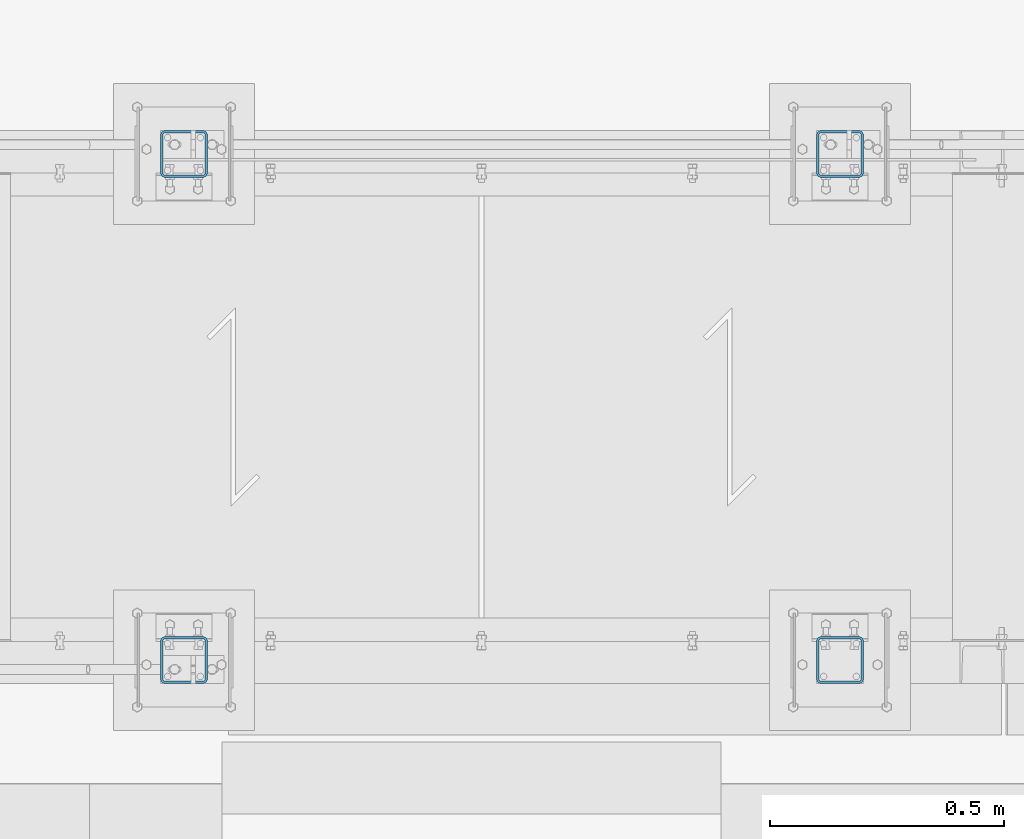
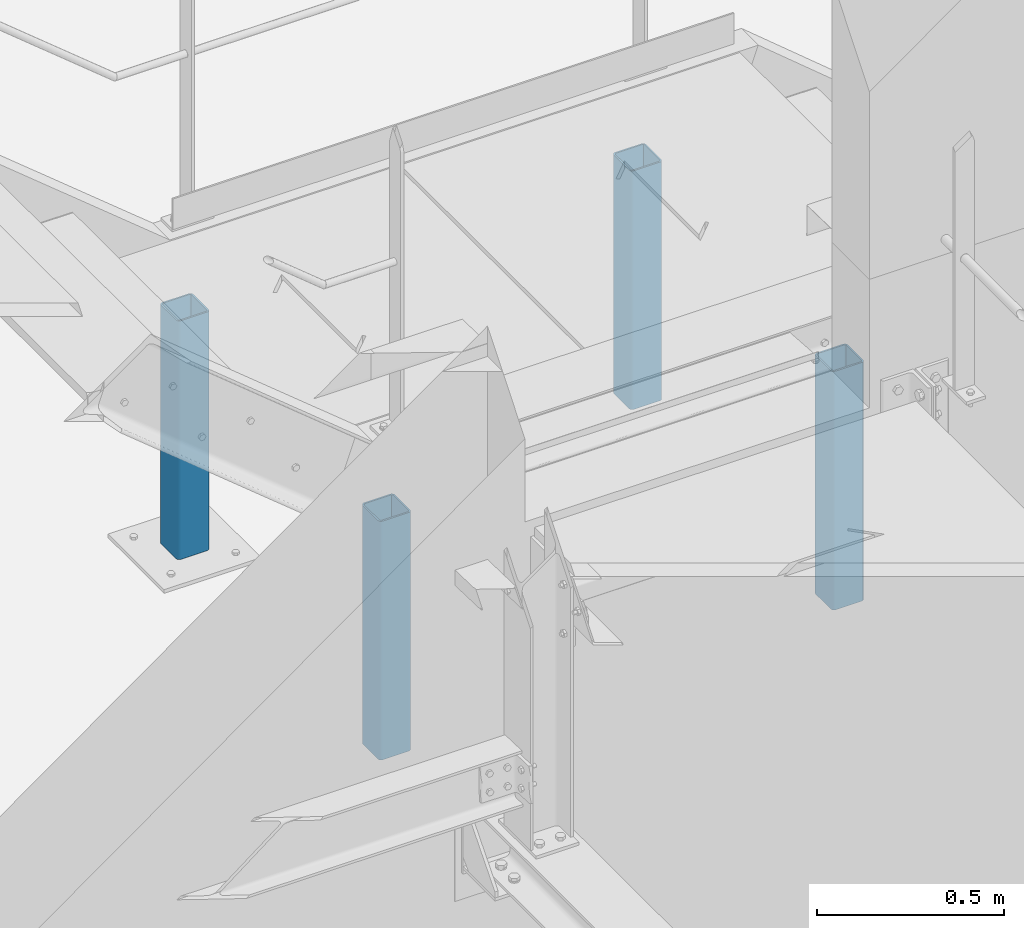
# One storey, part 35 of 362: 4 columns, 4 elements without a shape of their own.
"""IFC2X3 building model written with IfcOpenShell, lengths in millimetres."""

from ifc_helpers import new_model, si_unit, frame, origin_with_axes, origin_2d_with_axis, place, context, subcontext, project, spatial, hollow_rectangle, extrude, material, type_object, element, aggregate, save


model = new_model("IFC2X3")

# Units and contexts
model_context = context("Model", 3, precision=1e-05, world=origin_with_axes())
body_context = subcontext(model_context, "Body", "Model", "MODEL_VIEW")
ifc_project = project(units=[si_unit("LENGTHUNIT", "METRE", prefix="MILLI"), si_unit("AREAUNIT", "SQUARE_METRE"), si_unit("VOLUMEUNIT", "CUBIC_METRE"), si_unit("MASSUNIT", "GRAM", prefix="KILO"), si_unit("TIMEUNIT", "SECOND"), si_unit("PLANEANGLEUNIT", "RADIAN"), si_unit("SOLIDANGLEUNIT", "STERADIAN"), si_unit("THERMODYNAMICTEMPERATUREUNIT", "DEGREE_CELSIUS"), si_unit("LUMINOUSINTENSITYUNIT", "LUMEN")], contexts=[model_context])

# Site, building, storey
site_placement = place(None, origin_with_axes())
site = spatial("IfcSite", under=ifc_project, at=site_placement, Name="Undefined", CompositionType="ELEMENT")
building_placement = place(site_placement, origin_with_axes())
building = spatial("IfcBuilding", under=site, at=building_placement, Name="Undefined", CompositionType="ELEMENT")
storey_placement = place(building_placement, origin_with_axes())
storey = spatial("IfcBuildingStorey", under=building, at=storey_placement, Name="Undefined", CompositionType="ELEMENT", Elevation=0.0)

# Assembly, column
assembly_1_placement = place(storey_placement, origin_with_axes())
assembly_1 = element("IfcElementAssembly", 1, at=assembly_1_placement, inside=storey, AssemblyPlace="NOTDEFINED", PredefinedType="NOTDEFINED")
ifc_material = material(Name="Undefined/S235-E24")
column_type = type_object("IfcColumnType", Name="TUBE-C-100*100*5", PredefinedType="NOTDEFINED")
column_1_placement = place(assembly_1_placement, frame((23455.0, 15990.0001225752, 7062.0), z_axis=(0.0, 0.0, 1.0), x_axis=(0.0, 1.0, 0.0)))
column_1 = element("IfcColumn", 2, at=column_1_placement, type_object=column_type, material=ifc_material, Name="POTELET", ObjectType="TUBE-C-100*100*5", context=body_context, shape_type="SweptSolid", body=[
    extrude(hollow_rectangle(XDim=100.0, YDim=100.0, WallThickness=5.0, InnerFilletRadius=5.0, OuterFilletRadius=10.0, at=origin_2d_with_axis()), frame((0.0, 0.0, 780.000011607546), z_axis=(0.0, 0.0, -1.0), x_axis=(0.0, 1.0, 0.0)), (0.0, 0.0, 1.0), 780.0),
])
aggregate(assembly_1, [column_1])

assembly_2_placement = place(storey_placement, origin_with_axes())
assembly_2 = element("IfcElementAssembly", 3, at=assembly_2_placement, inside=storey, AssemblyPlace="NOTDEFINED", PredefinedType="NOTDEFINED")
column_2_placement = place(assembly_2_placement, frame((24855.0, 15990.0001225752, 7062.0), z_axis=(0.0, 0.0, 1.0), x_axis=(0.0, 1.0, 0.0)))
column_2 = element("IfcColumn", 4, at=column_2_placement, type_object=column_type, material=ifc_material, Name="POTELET", ObjectType="TUBE-C-100*100*5", context=body_context, shape_type="SweptSolid", body=[
    extrude(hollow_rectangle(XDim=100.0, YDim=100.0, WallThickness=5.0, InnerFilletRadius=5.0, OuterFilletRadius=10.0, at=origin_2d_with_axis()), frame((0.0, 0.0, 780.000011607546), z_axis=(0.0, 0.0, -1.0), x_axis=(0.0, 1.0, 0.0)), (0.0, 0.0, 1.0), 780.0),
])
aggregate(assembly_2, [column_2])

assembly_3_placement = place(storey_placement, origin_with_axes())
assembly_3 = element("IfcElementAssembly", 5, at=assembly_3_placement, inside=storey, AssemblyPlace="NOTDEFINED", PredefinedType="NOTDEFINED")
column_3_placement = place(assembly_3_placement, frame((23455.0, 17069.9998774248, 7062.0), z_axis=(0.0, 0.0, 1.0), x_axis=(0.0, -1.0, 0.0)))
column_3 = element("IfcColumn", 6, at=column_3_placement, type_object=column_type, material=ifc_material, Name="POTELET", ObjectType="TUBE-C-100*100*5", context=body_context, shape_type="SweptSolid", body=[
    extrude(hollow_rectangle(XDim=100.0, YDim=100.0, WallThickness=5.0, InnerFilletRadius=5.0, OuterFilletRadius=10.0, at=origin_2d_with_axis()), frame((0.0, 0.0, 780.000011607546), z_axis=(0.0, 0.0, -1.0), x_axis=(0.0, 1.0, 0.0)), (0.0, 0.0, 1.0), 780.0),
])
aggregate(assembly_3, [column_3])

assembly_4_placement = place(storey_placement, origin_with_axes())
assembly_4 = element("IfcElementAssembly", 7, at=assembly_4_placement, inside=storey, AssemblyPlace="NOTDEFINED", PredefinedType="NOTDEFINED")
column_4_placement = place(assembly_4_placement, frame((24855.0, 17069.9998774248, 7062.0), z_axis=(0.0, 0.0, 1.0), x_axis=(0.0, -1.0, 0.0)))
column_4 = element("IfcColumn", 8, at=column_4_placement, type_object=column_type, material=ifc_material, Name="POTELET", ObjectType="TUBE-C-100*100*5", context=body_context, shape_type="SweptSolid", body=[
    extrude(hollow_rectangle(XDim=100.0, YDim=100.0, WallThickness=5.0, InnerFilletRadius=5.0, OuterFilletRadius=10.0, at=origin_2d_with_axis()), frame((0.0, 0.0, 780.000011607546), z_axis=(0.0, 0.0, -1.0), x_axis=(0.0, 1.0, 0.0)), (0.0, 0.0, 1.0), 780.0),
])
aggregate(assembly_4, [column_4])

save(model, "model.ifc")
